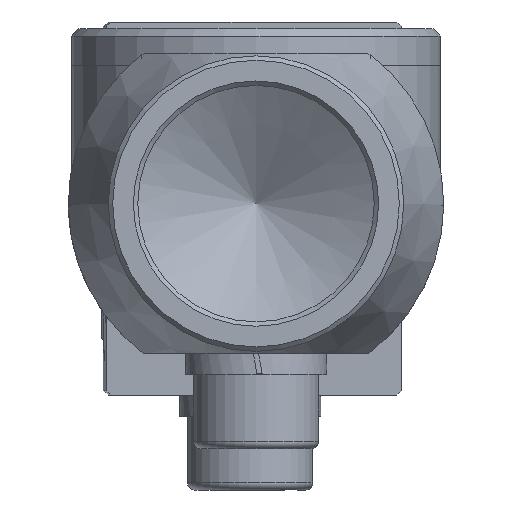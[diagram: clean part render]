
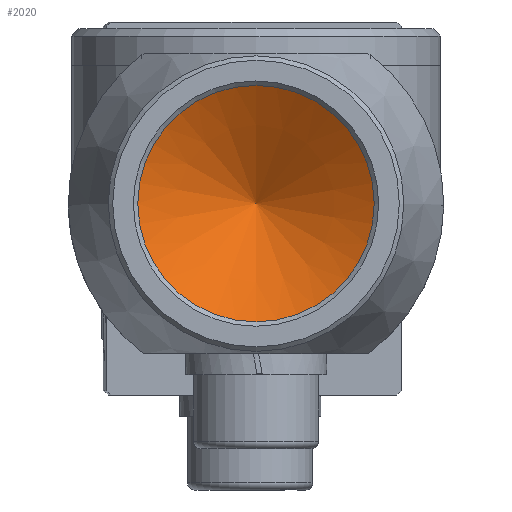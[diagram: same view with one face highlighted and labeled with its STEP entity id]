
A CAD part, front view. The second image highlights one B-rep face of the part: STEP entity #2020.
In plain terms, the highlighted conical face has half-angle 59 degrees and reference radius 4 mm.
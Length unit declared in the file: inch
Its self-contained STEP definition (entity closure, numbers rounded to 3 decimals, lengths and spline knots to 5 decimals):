
#257=FACE_OUTER_BOUND('',#384,.T.);
#384=EDGE_LOOP('',(#1533,#1534,#1535));
#517=LINE('',#3418,#644);
#644=VECTOR('',#2729,0.15748);
#776=CIRCLE('',#2312,0.31496);
#905=VERTEX_POINT('',#3310);
#920=VERTEX_POINT('',#3417);
#1121=EDGE_CURVE('',#905,#905,#776,.T.);
#1148=EDGE_CURVE('',#905,#920,#517,.T.);
#1533=ORIENTED_EDGE('',*,*,#1121,.T.);
#1534=ORIENTED_EDGE('',*,*,#1148,.T.);
#1535=ORIENTED_EDGE('',*,*,#1148,.F.);
#1965=CONICAL_SURFACE('',#2337,0.15748,1.03);
#2020=ADVANCED_FACE('',(#257),#1965,.F.);
#2312=AXIS2_PLACEMENT_3D('',#3312,#2667,#2668);
#2337=AXIS2_PLACEMENT_3D('',#3416,#2727,#2728);
#2667=DIRECTION('center_axis',(0.,-1.,0.));
#2668=DIRECTION('ref_axis',(1.,0.,0.));
#2727=DIRECTION('center_axis',(0.,-1.,0.));
#2728=DIRECTION('ref_axis',(1.,0.,0.));
#2729=DIRECTION('',(0.857,0.515,0.));
#3310=CARTESIAN_POINT('',(-0.31496,1.33858,0.));
#3312=CARTESIAN_POINT('Origin',(0.,1.33858,0.));
#3416=CARTESIAN_POINT('Origin',(0.,1.43321,0.));
#3417=CARTESIAN_POINT('',(0.,1.52783,0.));
#3418=CARTESIAN_POINT('',(-0.15748,1.43321,0.));
